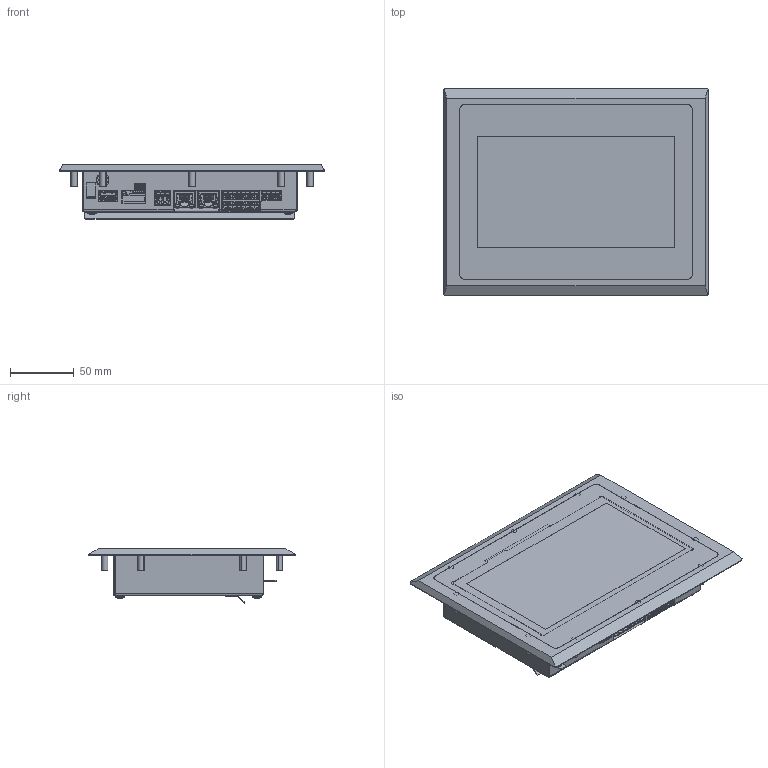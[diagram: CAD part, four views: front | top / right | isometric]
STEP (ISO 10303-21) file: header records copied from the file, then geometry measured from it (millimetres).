
FILE_DESCRIPTION (( 'STEP AP214' ), '1' );
FILE_NAME ('ETT736 (01-230-736)_Export 20211230.STEP', '2021-12-30T11:35:24', ( 'Windows-Benutzer' ), ( '' ), 'SwSTEP 2.0', 'SolidWorks 2020', '' );
FILE_SCHEMA (( 'AUTOMOTIVE_DESIGN' ));
Length unit declared in the file: millimetre
Products named in the file (1): ETT736 (01-230-736)_Export 20211230
Bounding box: 208 x 163 x 42.8 mm (x, y, z)
Surface area: 193379.6 mm2 (no closed solid volume)
Topology: 0 solids, 41 shells, 5521 faces, 15017 edges, 9681 vertices
Faces by surface type: plane 3898, cylinder 1144, bspline 276, cone 158, torus 45
Full cylindrical faces by diameter (mm): 0.2 x1, 0.9 x1
Entity records: 246628 total; most frequent: CARTESIAN_POINT 47309, ORIENTED_EDGE 29980, DIRECTION 26708, EDGE_CURVE 14995, LINE 11610, VECTOR 11610, VERTEX_POINT 9681, AXIS2_PLACEMENT_3D 7549
